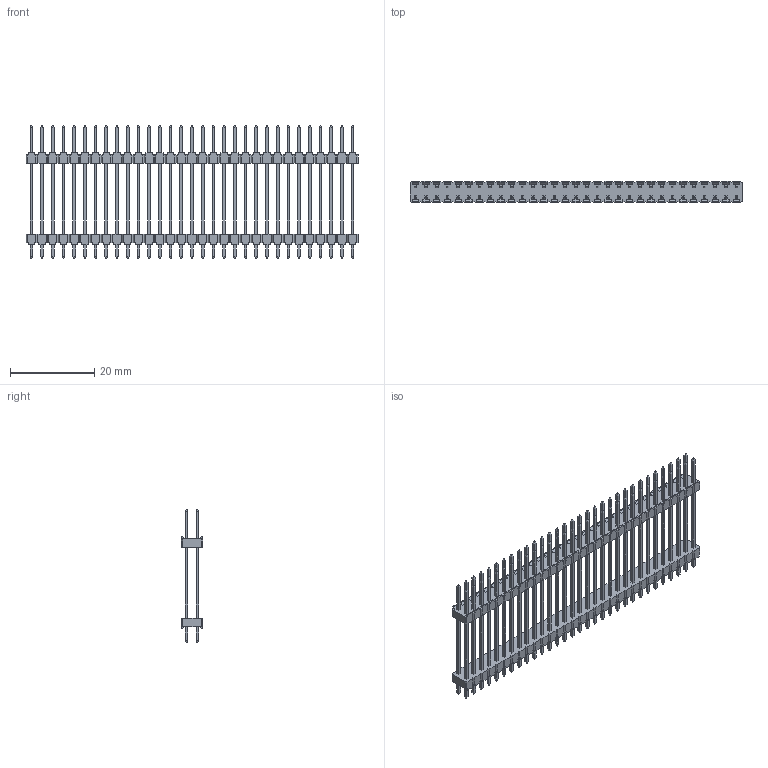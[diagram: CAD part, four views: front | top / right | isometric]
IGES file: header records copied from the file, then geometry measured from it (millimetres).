
Global section: file name: N:\GOLF_VI_2_54mm_UGII\9614XX-X04XX04-XX (TS-2185)\961462-8041404-XX.igs; native system: NX V3.0; preprocessor: UGS NX IGES V4.0; date: 20070618.115729; units: millimetre
Bounding box: 78.74 x 5 x 31.6 mm (x, y, z)
Surface area: 6681.9 mm2 (no closed solid volume)
Topology: 0 solids, 0 shells, 2368 faces, 12449 edges, 12449 vertices
Faces by surface type: bspline 2368
